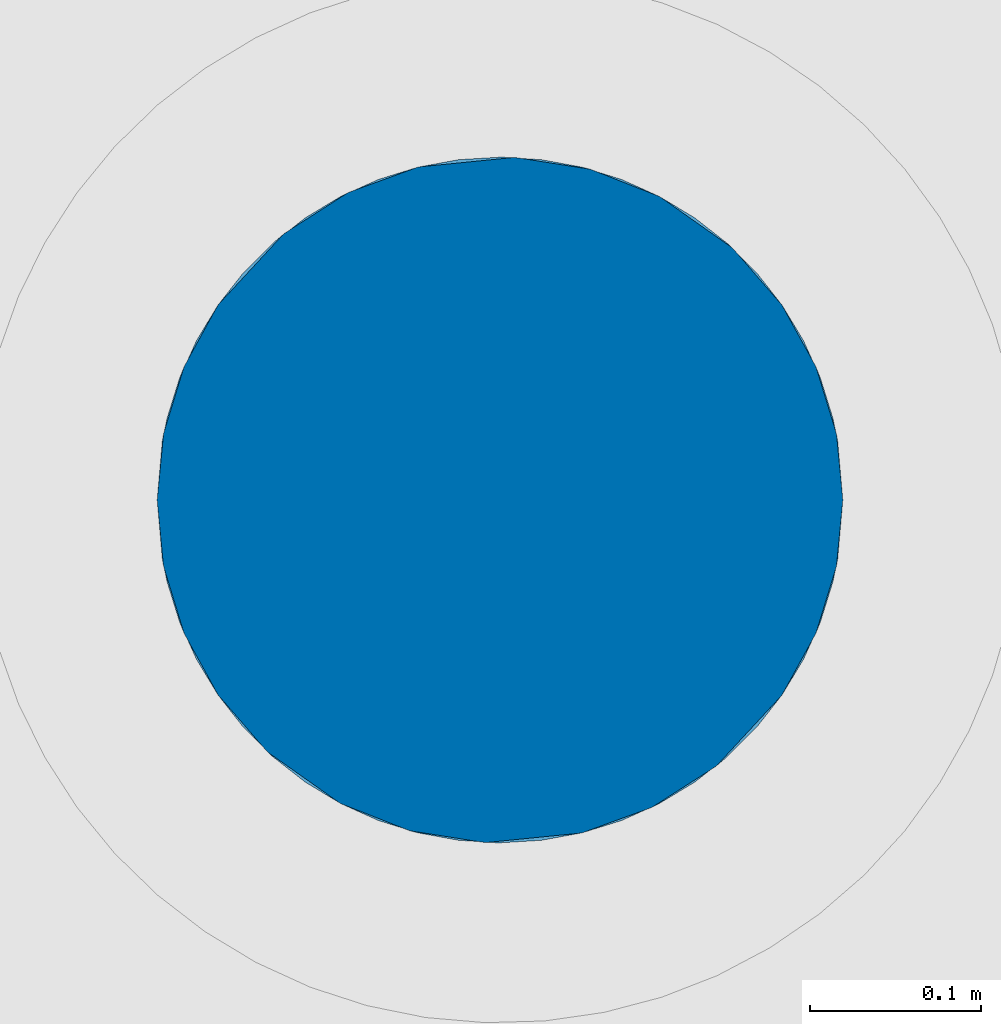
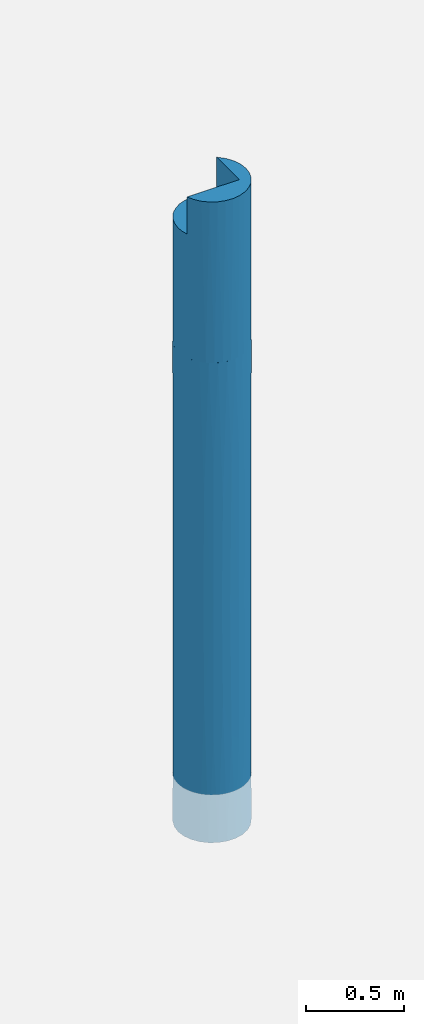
# One storey, part 13 of 29: 1 column.
"""IFC2X3 building model written with IfcOpenShell, lengths in centimetres."""

from ifc_helpers import new_model, entity, si_unit, converted_unit, derived_unit, direction, frame, origin, place, context, subcontext, project, spatial, faceted_brep, source, transform, mapped, material, type_object, type_shapes, element, save


model = new_model("IFC2X3")

# Units and contexts
model_context = context("Model", 3, precision=0.001, world=origin(), true_north=direction((6.12303176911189e-17, 1.0)))
body_context = subcontext(model_context, "Body", "Model", "MODEL_VIEW")
ifc_project = project(units=[si_unit("LENGTHUNIT", "METRE", prefix="CENTI"), si_unit("AREAUNIT", "SQUARE_METRE"), si_unit("VOLUMEUNIT", "CUBIC_METRE"), converted_unit("PLANEANGLEUNIT", "DEGREE", entity("IfcRatioMeasure", 0.0174532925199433), si_unit("PLANEANGLEUNIT", "RADIAN"), dimensions=[0, 0, 0, 0, 0, 0, 0]), si_unit("MASSUNIT", "GRAM", prefix="KILO"), derived_unit("MASSDENSITYUNIT", [(si_unit("MASSUNIT", "GRAM", prefix="KILO"), 1), (si_unit("LENGTHUNIT", "METRE"), -3)]), si_unit("TIMEUNIT", "SECOND"), si_unit("FREQUENCYUNIT", "HERTZ"), si_unit("THERMODYNAMICTEMPERATUREUNIT", "DEGREE_CELSIUS"), derived_unit("THERMALTRANSMITTANCEUNIT", [(si_unit("MASSUNIT", "GRAM", prefix="KILO"), 1), (si_unit("THERMODYNAMICTEMPERATUREUNIT", "KELVIN"), -1), (si_unit("TIMEUNIT", "SECOND"), -3)]), derived_unit("VOLUMETRICFLOWRATEUNIT", [(si_unit("LENGTHUNIT", "METRE"), 3), (si_unit("TIMEUNIT", "SECOND"), -1)]), si_unit("ELECTRICCURRENTUNIT", "AMPERE"), si_unit("ELECTRICVOLTAGEUNIT", "VOLT"), si_unit("POWERUNIT", "WATT"), si_unit("FORCEUNIT", "NEWTON"), si_unit("ILLUMINANCEUNIT", "LUX"), si_unit("LUMINOUSFLUXUNIT", "LUMEN"), si_unit("LUMINOUSINTENSITYUNIT", "CANDELA"), derived_unit("USERDEFINED", [(si_unit("MASSUNIT", "GRAM", prefix="KILO"), -1), (si_unit("LENGTHUNIT", "METRE"), -2), (si_unit("TIMEUNIT", "SECOND"), 3), (si_unit("LUMINOUSFLUXUNIT", "LUMEN"), 1)]), derived_unit("LINEARVELOCITYUNIT", [(si_unit("LENGTHUNIT", "METRE"), 1), (si_unit("TIMEUNIT", "SECOND"), -1)]), si_unit("PRESSUREUNIT", "PASCAL"), derived_unit("USERDEFINED", [(si_unit("LENGTHUNIT", "METRE"), -2), (si_unit("MASSUNIT", "GRAM", prefix="KILO"), 1), (si_unit("TIMEUNIT", "SECOND"), -2)])], contexts=[model_context])

# Site, building, storey
site_placement = place(None, origin())
site = spatial("IfcSite", under=ifc_project, at=site_placement, Name="Default", CompositionType="ELEMENT")
building_placement = place(site_placement, origin())
building = spatial("IfcBuilding", under=site, at=building_placement, Name="CAGE 03", CompositionType="ELEMENT")
storey_placement = place(building_placement, frame((0.0, 0.0, -26.0)))
storey = spatial("IfcBuildingStorey", under=building, at=storey_placement, Name="+3.74", CompositionType="ELEMENT", Elevation=-26.0000000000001)

# Column
ifc_material = material(Name="Béton, C25/30")
column_type = type_object("IfcColumnType", Name="Ø40", PredefinedType="COLUMN", material=ifc_material)
shared_shape = source(origin(), body_context, "Body", "Brep", [
    faceted_brep([(32.159527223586, 13.1576393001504, 398.0), (1.42453322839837, 13.1576393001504, 398.0), (3.28469338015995, 9.42265058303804, 398.0), (5.87789984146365, 6.15638509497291, 398.0), (9.09197996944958, 3.49902597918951, 398.0), (12.7868509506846, 1.56614542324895, 398.0), (16.8020222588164, 0.441474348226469, 398.0), (20.963198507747, 0.17379301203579, 398.0), (25.089759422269, 0.774842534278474, 398.0), (29.0025093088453, 2.21880801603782, 398.0), (32.5313723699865, 4.44339583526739, 398.0), (35.5226400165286, 7.35237727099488, 398.0), (38.0517765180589, 11.2207821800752, 398.0), (39.6254107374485, 15.5664108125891, 398.0), (40.1595272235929, 20.1576393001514, 398.0), (39.6244118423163, 24.7531008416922, 398.0), (38.0478956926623, 29.1022619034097, 398.0), (35.5143788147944, 32.972807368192, 398.0), (32.159527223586, 36.1576393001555, 398.0), (4.79780999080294, 32.9641013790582, 298.0), (8.00009402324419, 36.0368138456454, 298.0), (11.8026319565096, 38.3280080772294, 298.0), (16.0165521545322, 39.7238284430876, 298.0), (20.4343241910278, 40.1557513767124, 298.0), (24.8384604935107, 39.6026279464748, 298.0), (29.0121687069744, 38.0917057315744, 298.0), (32.7499677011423, 35.6972920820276, 298.0), (35.8677532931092, 32.5371236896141, 298.0), (38.2118260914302, 28.7666174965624, 298.0), (39.6663538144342, 24.5716755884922, 298.0), (40.1595272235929, 20.1576393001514, 298.0), (39.6254051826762, 15.5663872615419, 298.0), (38.0517710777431, 11.220771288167, 298.0), (35.5212444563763, 7.35117722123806, 298.0), (32.3189604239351, 4.27846475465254, 298.0), (28.5164224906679, 1.98727052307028, 298.0), (24.302502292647, 0.591450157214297, 298.0), (19.8847302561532, 0.159527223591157, 298.0), (15.4805939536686, 0.712650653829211, 298.0), (11.3068857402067, 2.22357286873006, 298.0), (7.56908674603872, 4.61798651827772, 298.0), (4.45130115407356, 7.77815491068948, 298.0), (2.10722835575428, 11.5486611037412, 298.0), (0.652700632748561, 15.7436030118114, 298.0), (0.159527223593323, 20.1576393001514, 298.0), (0.69364926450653, 24.7488913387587, 298.0), (2.26728336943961, 29.09450731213, 298.0), (0.478319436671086, 16.6009470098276, 375.0), (0.15952722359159, 20.1576393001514, 375.0), (1.42453322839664, 13.1576393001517, 375.0), (32.159527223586, 36.157639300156, 375.0), (28.4292163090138, 38.3678628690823, 375.0), (24.313519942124, 39.7214923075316, 375.0), (15.7005851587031, 39.6542501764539, 375.0), (20.0030831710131, 40.157027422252, 375.0), (11.607369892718, 38.2369259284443, 375.0), (0.693757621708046, 24.7493507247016, 375.0), (2.26749434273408, 29.0949296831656, 375.0), (7.91502749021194, 35.9713114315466, 375.0), (4.7951016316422, 32.9613272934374, 375.0), (32.159527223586, 13.1576393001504, 375.0)], [[[0, 1, 2, 3, 4, 5, 6, 7, 8, 9, 10, 11, 12, 13, 14, 15, 16, 17, 18]], [[19, 20, 21, 22, 23, 24, 25, 26, 27, 28, 29, 30, 31, 32, 33, 34, 35, 36, 37, 38, 39, 40, 41, 42, 43, 44, 45, 46]], [[47, 44, 43]], [[47, 48, 44]], [[49, 43, 42]], [[40, 39, 4]], [[3, 41, 40]], [[2, 42, 41]], [[5, 39, 38]], [[49, 47, 43]], [[2, 1, 49]], [[42, 2, 49]], [[41, 3, 2]], [[40, 4, 3]], [[5, 4, 39]], [[38, 6, 5]], [[38, 37, 6]], [[8, 36, 35]], [[7, 37, 36]], [[9, 35, 34]], [[32, 31, 12]], [[12, 33, 32]], [[10, 34, 33]], [[13, 31, 30]], [[7, 36, 8]], [[8, 35, 9]], [[10, 9, 34]], [[33, 11, 10]], [[33, 12, 11]], [[13, 12, 31]], [[30, 14, 13]], [[37, 7, 6]], [[15, 29, 28]], [[30, 29, 14]], [[26, 25, 50]], [[50, 27, 26]], [[16, 28, 27]], [[51, 25, 24]], [[14, 29, 15]], [[17, 16, 27]], [[15, 28, 16]], [[50, 25, 51]], [[24, 52, 51]], [[50, 18, 17]], [[17, 27, 50]], [[24, 23, 52]], [[53, 22, 21]], [[54, 23, 22]], [[55, 21, 20]], [[46, 45, 56]], [[57, 19, 46]], [[58, 20, 19]], [[48, 45, 44]], [[54, 22, 53]], [[53, 21, 55]], [[58, 55, 20]], [[19, 59, 58]], [[19, 57, 59]], [[56, 57, 46]], [[45, 48, 56]], [[23, 54, 52]], [[52, 54, 53, 55, 58, 59, 57, 56, 48, 47, 49, 60, 50, 51]], [[18, 50, 60, 0]], [[1, 0, 60, 49]]]),
    faceted_brep([(22.570260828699, 40.0118167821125, 0.0), (27.2516249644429, 38.8579641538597, 0.0), (31.5208221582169, 36.6173166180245, 0.0), (35.1297421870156, 33.4200924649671, 0.0), (37.868647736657, 29.4521027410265, 0.0), (39.5783635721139, 24.9439525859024, 0.0), (40.1595272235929, 20.1576393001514, 0.0), (39.5783635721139, 15.3713260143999, 0.0), (37.868647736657, 10.8631758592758, 0.0), (35.1297421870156, 6.89518613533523, 0.0), (31.5208221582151, 3.69796198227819, 0.0), (27.2516249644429, 1.45731444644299, 0.0), (22.570260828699, 0.303461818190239, 0.0), (17.7487936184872, 0.303461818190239, 0.0), (13.0674294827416, 1.45731444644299, 0.0), (8.79823228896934, 3.69796198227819, 0.0), (5.18931226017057, 6.89518613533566, 0.0), (2.45040671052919, 10.8631758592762, 0.0), (0.740690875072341, 15.3713260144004, 0.0), (0.159527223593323, 20.1576393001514, 0.0), (0.740690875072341, 24.9439525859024, 0.0), (2.45040671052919, 29.4521027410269, 0.0), (5.18931226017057, 33.4200924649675, 0.0), (8.79823228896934, 36.6173166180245, 0.0), (13.0674294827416, 38.8579641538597, 0.0), (17.7487936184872, 40.0118167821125, 0.0), (27.2516249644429, 1.45731444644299, 298.0), (31.5208221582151, 3.69796198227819, 298.0), (35.1297421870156, 6.89518613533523, 298.0), (37.868647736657, 10.8631758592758, 298.0), (39.5783635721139, 15.3713260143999, 298.0), (40.1595272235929, 20.1576393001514, 298.0), (39.5783635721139, 24.9439525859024, 298.0), (37.868647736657, 29.4521027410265, 298.0), (35.1297421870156, 33.4200924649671, 298.0), (31.5208221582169, 36.6173166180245, 298.0), (27.2516249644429, 38.8579641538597, 298.0), (22.570260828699, 40.0118167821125, 298.0), (17.7487936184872, 40.0118167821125, 298.0), (13.0674294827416, 38.8579641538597, 298.0), (8.79823228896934, 36.6173166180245, 298.0), (5.18931226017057, 33.4200924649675, 298.0), (2.45040671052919, 29.4521027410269, 298.0), (0.740690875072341, 24.9439525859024, 298.0), (0.159527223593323, 20.1576393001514, 298.0), (0.740690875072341, 15.3713260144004, 298.0), (2.45040671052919, 10.8631758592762, 298.0), (5.18931226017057, 6.89518613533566, 298.0), (8.79823228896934, 3.69796198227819, 298.0), (13.0674294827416, 1.45731444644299, 298.0), (17.7487936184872, 0.303461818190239, 298.0), (22.570260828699, 0.303461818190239, 298.0), (29.4539906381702, 37.8667598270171, 234.492004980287), (15.3732139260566, 39.5764756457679, 237.069426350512), (39.8586298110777, 23.6138449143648, 60.2992552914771), (38.8598520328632, 27.2497371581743, 92.1783624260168), (29.4539906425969, 37.8667598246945, 64.7303650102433), (33.4219803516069, 35.127854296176, 86.909719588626), (0.15952722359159, 20.1576393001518, 49.3811051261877), (36.6192045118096, 31.5189342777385, 234.492005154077), (38.8598520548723, 27.2497371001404, 216.184382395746), (39.789828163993, 23.9853389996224, 148.140478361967), (38.5835538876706, 27.939364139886, 151.462832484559), (0.15952722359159, 20.1576393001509, 100.479587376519), (0.539464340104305, 24.0374759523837, 149.859525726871), (0.457816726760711, 23.5989476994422, 74.9297628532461), (1.73651405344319, 27.9417632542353, 152.588649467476), (1.45920236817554, 27.2497370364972, 86.9097194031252), (24.9458404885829, 39.5764756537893, 86.9097193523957), (20.1595272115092, 40.1576393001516, 64.7303650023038), (3.69984990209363, 31.5189342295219, 237.069426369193), (6.89707405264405, 35.1278542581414, 233.269635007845), (40.1595272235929, 20.1576393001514, 248.619841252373), (10.8650637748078, 37.8667598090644, 86.9097194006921), (33.4219803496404, 35.127854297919, 216.184382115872), (36.6192044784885, 31.5189343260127, 161.451403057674), (36.6192045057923, 31.5189342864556, 64.7303651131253), (0.15952722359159, 20.1576393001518, 197.520510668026), (0.15952722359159, 20.1576393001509, 199.23979368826), (29.4539906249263, 37.8667598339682, 149.0), (0.441806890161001, 23.5059978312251, 238.83127802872), (1.45920236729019, 27.2497370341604, 211.090280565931), (15.3732139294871, 39.5764756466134, 60.9305736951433), (15.3732139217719, 39.5764756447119, 149.0), (11.3350094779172, 38.1055608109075, 149.0), (6.89707405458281, 35.1278542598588, 64.7303649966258), (20.1595272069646, 40.1576393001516, 233.269635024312), (3.6998499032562, 31.5189342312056, 60.930573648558), (3.69984990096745, 31.5189342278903, 149.0), (21.0345162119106, 40.1384899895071, 146.717454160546), (25.4559542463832, 39.4435891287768, 149.0), (24.9458404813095, 39.5764756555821, 211.09028058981), (40.1595272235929, 20.1576393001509, 98.7603174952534), (10.865063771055, 37.8667598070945, 211.09028055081), (33.7312290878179, 34.8480752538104, 151.547050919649), (7.56471106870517, 35.6937458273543, 146.717453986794), (39.8666164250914, 23.5680110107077, 223.070239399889), (40.1595272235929, 20.1576393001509, 197.520634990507), (40.1595272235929, 20.1576393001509, 100.479367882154), (40.1595272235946, 20.1576393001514, 49.3801580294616), (0.15952722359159, 20.1576393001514, 98.7602553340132), (0.15952722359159, 20.1576393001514, 248.619032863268), (40.1595272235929, 20.1576393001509, 199.239683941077), (36.6192045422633, 8.79634436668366, 237.069426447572), (33.4219803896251, 5.18742433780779, 233.269635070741), (39.8772475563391, 16.8092807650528, 238.831278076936), (38.8598520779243, 13.0655415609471, 211.090280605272), (38.5825403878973, 12.373515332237, 152.588649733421), (38.8598520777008, 13.0655415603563, 86.9097193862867), (39.7795901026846, 16.2778026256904, 149.859525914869), (6.89707406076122, 5.18742433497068, 86.9097194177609), (10.8650637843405, 2.44851878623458, 64.7303649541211), (24.9458405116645, 0.738802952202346, 149.0), (29.4539906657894, 2.44851878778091, 86.909719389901), (28.9840449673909, 2.20971778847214, 149.0), (6.89707406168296, 5.18742433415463, 216.184381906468), (32.7543433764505, 4.62153277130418, 146.717453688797), (33.4219803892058, 5.18742433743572, 64.7303649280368), (39.8612377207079, 16.7163309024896, 74.9297629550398), (20.1595272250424, 0.157639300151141, 64.7303649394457), (15.373213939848, 0.738802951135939, 86.9097193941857), (1.45920237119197, 13.0655415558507, 92.1783625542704), (10.8650637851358, 2.44851878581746, 234.492004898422), (24.9458405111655, 0.738802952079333, 237.069426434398), (3.6998499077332, 8.79634436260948, 234.492004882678), (3.69984990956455, 8.79634435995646, 161.451402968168), (3.69984990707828, 8.7963443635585, 64.7303649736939), (1.45920237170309, 13.0655415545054, 216.184381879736), (0.52922625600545, 16.3299397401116, 148.140474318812), (1.73550049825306, 12.3759146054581, 151.462831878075), (10.8650637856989, 2.44851878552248, 149.0), (0.460424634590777, 16.7014336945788, 60.2992559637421), (24.9458405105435, 0.738802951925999, 60.9305735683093), (19.2845382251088, 0.176788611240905, 146.717453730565), (36.6192045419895, 8.7963443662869, 60.9305735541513), (36.6192045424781, 8.79634436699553, 149.0), (20.1595272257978, 0.157639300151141, 233.269635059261), (14.8631001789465, 0.871689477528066, 149.0), (15.3732139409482, 0.738802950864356, 211.090280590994), (29.453990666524, 2.44851878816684, 211.090280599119), (6.58782530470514, 5.46720339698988, 151.54705066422), (0.452438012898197, 16.7472676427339, 223.070237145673)], [[[0, 1, 2, 3, 4, 5, 6, 7, 8, 9, 10, 11, 12, 13, 14, 15, 16, 17, 18, 19, 20, 21, 22, 23, 24, 25]], [[26, 27, 28, 29, 30, 31, 32, 33, 34, 35, 36, 37, 38, 39, 40, 41, 42, 43, 44, 45, 46, 47, 48, 49, 50, 51]], [[36, 35, 52]], [[39, 38, 53]], [[54, 6, 5]], [[55, 5, 4]], [[2, 56, 57]], [[20, 19, 58]], [[34, 33, 59]], [[60, 61, 62]], [[2, 1, 56]], [[63, 64, 65]], [[66, 67, 64]], [[68, 0, 69]], [[2, 57, 3]], [[68, 1, 0]], [[70, 41, 71]], [[32, 31, 72]], [[73, 24, 23]], [[74, 35, 34]], [[33, 32, 60]], [[59, 33, 60]], [[74, 59, 75]], [[75, 76, 57]], [[64, 63, 77, 78]], [[74, 52, 35]], [[42, 41, 70]], [[57, 56, 79]], [[79, 52, 74]], [[80, 43, 81]], [[69, 25, 82]], [[83, 73, 84]], [[40, 71, 41]], [[73, 23, 85]], [[67, 65, 64]], [[37, 86, 38]], [[87, 88, 85]], [[88, 70, 71]], [[89, 68, 69]], [[22, 87, 85]], [[79, 68, 90]], [[85, 23, 22]], [[81, 43, 42]], [[86, 37, 91]], [[53, 38, 86]], [[61, 92, 54]], [[57, 76, 3]], [[54, 5, 55]], [[69, 82, 83]], [[83, 53, 86]], [[76, 75, 55]], [[93, 40, 39]], [[71, 40, 93]], [[94, 79, 74]], [[21, 20, 67]], [[44, 43, 80]], [[69, 0, 25]], [[91, 37, 36]], [[95, 73, 85]], [[3, 76, 4]], [[94, 74, 75]], [[52, 79, 91]], [[79, 56, 68]], [[32, 72, 96]], [[61, 97, 98, 92]], [[1, 68, 56]], [[55, 4, 76]], [[25, 24, 82]], [[89, 69, 83]], [[93, 53, 83]], [[90, 89, 91]], [[91, 89, 86]], [[83, 86, 89]], [[22, 21, 87]], [[95, 85, 88]], [[81, 70, 88]], [[88, 87, 67]], [[84, 95, 93]], [[93, 95, 71]], [[88, 71, 95]], [[91, 36, 52]], [[75, 59, 60]], [[74, 34, 59]], [[24, 73, 82]], [[83, 82, 73]], [[93, 39, 53]], [[21, 67, 87]], [[81, 42, 70]], [[62, 61, 55]], [[61, 60, 96]], [[55, 75, 62]], [[60, 62, 75]], [[61, 54, 55]], [[54, 92, 99, 6]], [[89, 90, 68]], [[91, 79, 90]], [[95, 84, 73]], [[93, 83, 84]], [[65, 58, 100, 63]], [[20, 58, 65]], [[20, 65, 67]], [[80, 64, 78]], [[64, 81, 66]], [[64, 80, 81]], [[80, 78, 101, 44]], [[75, 57, 94]], [[79, 94, 57]], [[96, 72, 102, 97]], [[61, 96, 97]], [[32, 96, 60]], [[81, 88, 66]], [[67, 66, 88]], [[103, 28, 104]], [[105, 30, 106]], [[107, 108, 109]], [[16, 15, 110]], [[15, 111, 110]], [[112, 113, 114]], [[111, 15, 14]], [[7, 6, 99]], [[47, 115, 48]], [[116, 113, 117]], [[98, 109, 118]], [[13, 119, 120]], [[121, 18, 17]], [[120, 14, 13]], [[49, 48, 122]], [[45, 44, 101]], [[26, 51, 123]], [[115, 124, 125]], [[125, 126, 110]], [[127, 128, 129]], [[124, 47, 46]], [[127, 124, 46]], [[109, 98, 97, 102]], [[122, 48, 115]], [[113, 11, 10]], [[110, 111, 130]], [[130, 122, 115]], [[131, 19, 18]], [[119, 12, 132]], [[117, 10, 9]], [[133, 120, 119]], [[113, 10, 117]], [[108, 118, 109]], [[126, 125, 121]], [[125, 124, 127]], [[134, 135, 117]], [[135, 103, 104]], [[50, 136, 51]], [[9, 134, 117]], [[119, 13, 12]], [[130, 120, 137]], [[106, 30, 29]], [[136, 50, 138]], [[123, 51, 136]], [[16, 126, 17]], [[46, 45, 127]], [[128, 100, 131]], [[119, 132, 112]], [[112, 123, 136]], [[131, 18, 121]], [[139, 27, 26]], [[104, 27, 139]], [[31, 30, 105]], [[8, 7, 108]], [[110, 126, 16]], [[140, 130, 115]], [[138, 50, 49]], [[27, 104, 28]], [[29, 28, 103]], [[140, 115, 125]], [[122, 130, 138]], [[130, 111, 120]], [[45, 101, 141]], [[128, 77, 63, 100]], [[14, 120, 111]], [[121, 17, 126]], [[12, 11, 132]], [[133, 119, 112]], [[139, 123, 112]], [[112, 132, 113]], [[137, 133, 138]], [[138, 133, 136]], [[112, 136, 133]], [[9, 8, 134]], [[116, 117, 135]], [[106, 103, 135]], [[135, 134, 108]], [[114, 116, 139]], [[139, 116, 104]], [[135, 104, 116]], [[138, 49, 122]], [[115, 47, 124]], [[11, 113, 132]], [[139, 26, 123]], [[8, 108, 134]], [[106, 29, 103]], [[129, 128, 121]], [[128, 127, 141]], [[121, 125, 129]], [[127, 129, 125]], [[128, 131, 121]], [[131, 100, 58, 19]], [[133, 137, 120]], [[138, 130, 137]], [[116, 114, 113]], [[139, 112, 114]], [[118, 99, 92, 98]], [[7, 99, 118]], [[7, 118, 108]], [[105, 109, 102]], [[109, 106, 107]], [[109, 105, 106]], [[105, 102, 72, 31]], [[125, 110, 140]], [[130, 140, 110]], [[141, 101, 78, 77]], [[128, 141, 77]], [[45, 141, 127]], [[106, 135, 107]], [[108, 107, 135]]]),
])
type_shapes(column_type, [shared_shape])
column_placement = place(storey_placement, frame((8242.20629291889, 3801.50302677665, -32.0)))
element("IfcColumn", 1, at=column_placement, inside=storey, type_object=column_type, material=ifc_material, Name="BBGO-Poteau circ:Ø40", ObjectType="Ø40", context=body_context, shape_type="MappedRepresentation", body=[
    mapped(shared_shape, transform((0.0, 0.0, 0.0), scale=1.0)),
])

save(model, "model.ifc")
